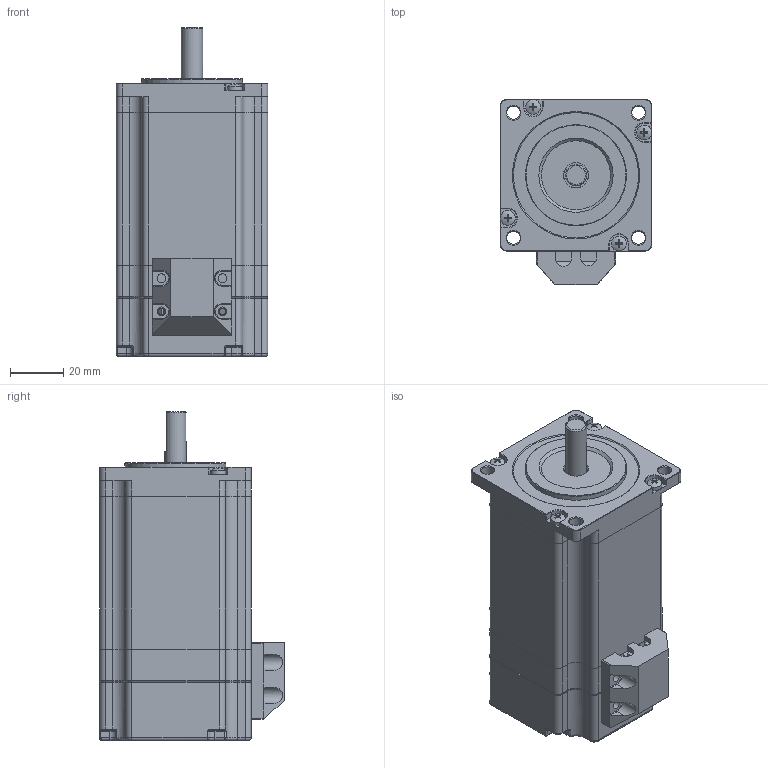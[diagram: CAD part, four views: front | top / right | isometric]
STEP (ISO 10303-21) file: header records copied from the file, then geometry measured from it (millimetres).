
FILE_DESCRIPTION (( 'STEP AP203' ), '1' );
FILE_NAME ('YK257EC80E1.STEP', '2018-10-09T01:32:00', ( '' ), ( '' ), 'SwSTEP 2.0', 'SolidWorks 2014', '' );
FILE_SCHEMA (( 'CONFIG_CONTROL_DESIGN' ));
Length unit declared in the file: millimetre
Products named in the file (18): YK257EC80E1; YK257EC 坋趼羞攫芛蹟隊; YK257EC 隅赽; YK257EC 綴裔; 257萇儂萇擢揤啣; YK257萇儂晤鎢ん欶; YK257EC 粣; YK257EC ヶ裔
Assembly tree (10 placements, depth 2):
  YK257EC80E1
    YK257EC ヶ裔
    YK257EC 綴裔
    YK257EC 隅赽
    YK257EC 粣
    YK257EC 坋趼羞攫芛蹟隊  x4
    YK257萇儂晤鎢ん欶
    257萇儂萇擢揤啣
  YK257EC 坋趼羞攫芛蹟隊
  YK257EC 坋趼羞攫芛蹟隊
  YK257EC 隅赽
  YK257EC 綴裔
Bounding box: 57.15 x 69.65 x 124 mm (x, y, z)
Volume: 178199.6 mm3; surface area: 73989.2 mm2
Topology: 10 solids, 10 shells, 1245 faces, 2781 edges, 1566 vertices
Faces by surface type: cone 652, plane 288, cylinder 232, torus 53, bspline 16, sphere 4
Full cylindrical faces by diameter (mm): 2.5 x6, 2.598 x4, 3.2 x12, 3.3 x4, 5 x4, 5.6 x4, 8 x2, 9.5 x2, 10 x1, 22 x2, 26 x1, 34.78 x1, 34.8 x2, 35.4 x2, 38.1 x1, 50 x1, 51.5 x1
Entity records: 21904 total; most frequent: CARTESIAN_POINT 4251, DIRECTION 3488, ORIENTED_EDGE 2990, EDGE_CURVE 1495, AXIS2_PLACEMENT_3D 1367, VERTEX_POINT 1023, EDGE_LOOP 1006, FACE_OUTER_BOUND 767
